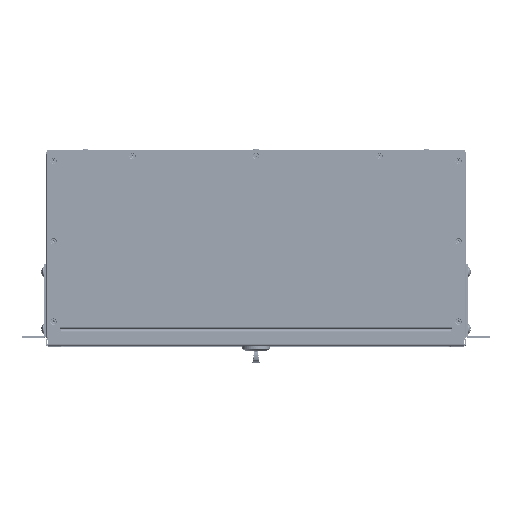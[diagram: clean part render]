
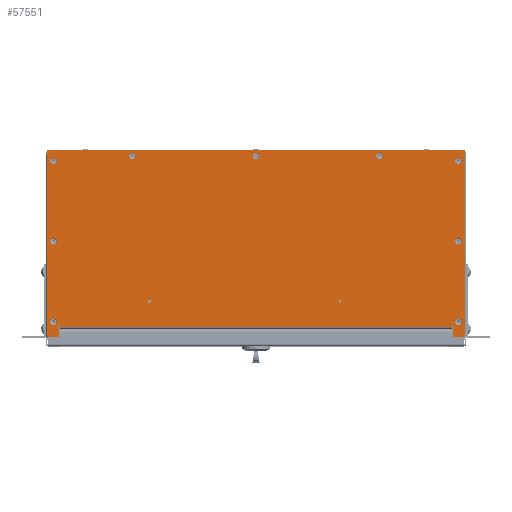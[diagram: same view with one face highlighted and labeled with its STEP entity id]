
A CAD part, top view. The second image highlights one B-rep face of the part: STEP entity #57551.
In plain terms, the highlighted planar face has unit normal (0, 0, 1).
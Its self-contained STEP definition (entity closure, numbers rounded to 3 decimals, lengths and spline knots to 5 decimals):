
#1809=CIRCLE('',#61640,0.00141);
#1810=CIRCLE('',#61641,0.00141);
#1811=CIRCLE('',#61642,0.00324);
#1812=CIRCLE('',#61643,0.00324);
#1813=CIRCLE('',#61644,0.00324);
#1814=CIRCLE('',#61645,0.00324);
#1815=CIRCLE('',#61646,0.00324);
#1816=CIRCLE('',#61647,0.00324);
#1817=CIRCLE('',#61648,0.00324);
#1818=CIRCLE('',#61649,0.00324);
#1819=CIRCLE('',#61650,0.00324);
#1820=CIRCLE('',#61651,0.00081);
#1821=CIRCLE('',#61652,0.00081);
#3971=PLANE('',#61639);
#6575=LINE('',#91644,#11703);
#6576=LINE('',#91649,#11704);
#6577=LINE('',#91651,#11705);
#6578=LINE('',#91653,#11706);
#6579=LINE('',#91655,#11707);
#6580=LINE('',#91657,#11708);
#6581=LINE('',#91659,#11709);
#6582=LINE('',#91661,#11710);
#11703=VECTOR('',#69071,1.);
#11704=VECTOR('',#69074,1.);
#11705=VECTOR('',#69075,1.);
#11706=VECTOR('',#69076,1.);
#11707=VECTOR('',#69077,1.);
#11708=VECTOR('',#69078,1.);
#11709=VECTOR('',#69079,1.);
#11710=VECTOR('',#69080,1.);
#19760=ORIENTED_EDGE('',*,*,#35246,.T.);
#19761=ORIENTED_EDGE('',*,*,#35247,.T.);
#19762=ORIENTED_EDGE('',*,*,#35248,.T.);
#19763=ORIENTED_EDGE('',*,*,#35249,.T.);
#19764=ORIENTED_EDGE('',*,*,#35250,.T.);
#19765=ORIENTED_EDGE('',*,*,#35251,.T.);
#19766=ORIENTED_EDGE('',*,*,#35252,.T.);
#19767=ORIENTED_EDGE('',*,*,#35253,.T.);
#19768=ORIENTED_EDGE('',*,*,#35254,.T.);
#19769=ORIENTED_EDGE('',*,*,#35255,.T.);
#19770=ORIENTED_EDGE('',*,*,#35256,.T.);
#19771=ORIENTED_EDGE('',*,*,#35257,.F.);
#19772=ORIENTED_EDGE('',*,*,#35258,.T.);
#19773=ORIENTED_EDGE('',*,*,#35259,.F.);
#19774=ORIENTED_EDGE('',*,*,#35260,.F.);
#19775=ORIENTED_EDGE('',*,*,#35261,.T.);
#19776=ORIENTED_EDGE('',*,*,#35262,.T.);
#19777=ORIENTED_EDGE('',*,*,#35263,.F.);
#19778=ORIENTED_EDGE('',*,*,#35264,.F.);
#19779=ORIENTED_EDGE('',*,*,#35265,.T.);
#19780=ORIENTED_EDGE('',*,*,#35266,.T.);
#35246=EDGE_CURVE('',#43357,#43357,#1809,.T.);
#35247=EDGE_CURVE('',#43358,#43358,#1810,.T.);
#35248=EDGE_CURVE('',#43359,#43359,#1811,.T.);
#35249=EDGE_CURVE('',#43360,#43360,#1812,.T.);
#35250=EDGE_CURVE('',#43361,#43361,#1813,.T.);
#35251=EDGE_CURVE('',#43362,#43362,#1814,.T.);
#35252=EDGE_CURVE('',#43363,#43363,#1815,.T.);
#35253=EDGE_CURVE('',#43364,#43364,#1816,.T.);
#35254=EDGE_CURVE('',#43365,#43365,#1817,.T.);
#35255=EDGE_CURVE('',#43366,#43366,#1818,.T.);
#35256=EDGE_CURVE('',#43367,#43367,#1819,.T.);
#35257=EDGE_CURVE('',#43368,#43369,#6575,.F.);
#35258=EDGE_CURVE('',#43368,#43370,#1820,.F.);
#35259=EDGE_CURVE('',#43371,#43370,#6576,.F.);
#35260=EDGE_CURVE('',#43372,#43371,#6577,.T.);
#35261=EDGE_CURVE('',#43372,#43373,#6578,.T.);
#35262=EDGE_CURVE('',#43373,#43374,#6579,.T.);
#35263=EDGE_CURVE('',#43375,#43374,#6580,.T.);
#35264=EDGE_CURVE('',#43376,#43375,#6581,.T.);
#35265=EDGE_CURVE('',#43376,#43377,#6582,.T.);
#35266=EDGE_CURVE('',#43377,#43369,#1821,.F.);
#43357=VERTEX_POINT('',#91623);
#43358=VERTEX_POINT('',#91625);
#43359=VERTEX_POINT('',#91627);
#43360=VERTEX_POINT('',#91629);
#43361=VERTEX_POINT('',#91631);
#43362=VERTEX_POINT('',#91633);
#43363=VERTEX_POINT('',#91635);
#43364=VERTEX_POINT('',#91637);
#43365=VERTEX_POINT('',#91639);
#43366=VERTEX_POINT('',#91641);
#43367=VERTEX_POINT('',#91643);
#43368=VERTEX_POINT('',#91645);
#43369=VERTEX_POINT('',#91646);
#43370=VERTEX_POINT('',#91648);
#43371=VERTEX_POINT('',#91650);
#43372=VERTEX_POINT('',#91652);
#43373=VERTEX_POINT('',#91654);
#43374=VERTEX_POINT('',#91656);
#43375=VERTEX_POINT('',#91658);
#43376=VERTEX_POINT('',#91660);
#43377=VERTEX_POINT('',#91662);
#48559=EDGE_LOOP('',(#19760));
#48560=EDGE_LOOP('',(#19761));
#48561=EDGE_LOOP('',(#19762));
#48562=EDGE_LOOP('',(#19763));
#48563=EDGE_LOOP('',(#19764));
#48564=EDGE_LOOP('',(#19765));
#48565=EDGE_LOOP('',(#19766));
#48566=EDGE_LOOP('',(#19767));
#48567=EDGE_LOOP('',(#19768));
#48568=EDGE_LOOP('',(#19769));
#48569=EDGE_LOOP('',(#19770));
#48570=EDGE_LOOP('',(#19771,#19772,#19773,#19774,#19775,#19776,#19777,#19778,
#19779,#19780));
#52547=FACE_BOUND('',#48559,.T.);
#52548=FACE_BOUND('',#48560,.T.);
#52549=FACE_BOUND('',#48561,.T.);
#52550=FACE_BOUND('',#48562,.T.);
#52551=FACE_BOUND('',#48563,.T.);
#52552=FACE_BOUND('',#48564,.T.);
#52553=FACE_BOUND('',#48565,.T.);
#52554=FACE_BOUND('',#48566,.T.);
#52555=FACE_BOUND('',#48567,.T.);
#52556=FACE_BOUND('',#48568,.T.);
#52557=FACE_BOUND('',#48569,.T.);
#52558=FACE_BOUND('',#48570,.T.);
#57551=ADVANCED_FACE('',(#52547,#52548,#52549,#52550,#52551,#52552,#52553,
#52554,#52555,#52556,#52557,#52558),#3971,.T.);
#61639=AXIS2_PLACEMENT_3D('',#91621,#69047,#69048);
#61640=AXIS2_PLACEMENT_3D('',#91622,#69049,#69050);
#61641=AXIS2_PLACEMENT_3D('',#91624,#69051,#69052);
#61642=AXIS2_PLACEMENT_3D('',#91626,#69053,#69054);
#61643=AXIS2_PLACEMENT_3D('',#91628,#69055,#69056);
#61644=AXIS2_PLACEMENT_3D('',#91630,#69057,#69058);
#61645=AXIS2_PLACEMENT_3D('',#91632,#69059,#69060);
#61646=AXIS2_PLACEMENT_3D('',#91634,#69061,#69062);
#61647=AXIS2_PLACEMENT_3D('',#91636,#69063,#69064);
#61648=AXIS2_PLACEMENT_3D('',#91638,#69065,#69066);
#61649=AXIS2_PLACEMENT_3D('',#91640,#69067,#69068);
#61650=AXIS2_PLACEMENT_3D('',#91642,#69069,#69070);
#61651=AXIS2_PLACEMENT_3D('',#91647,#69072,#69073);
#61652=AXIS2_PLACEMENT_3D('',#91663,#69081,#69082);
#69047=DIRECTION('',(0.,0.,1.));
#69048=DIRECTION('',(1.,0.,0.));
#69049=DIRECTION('',(0.,0.,-1.));
#69050=DIRECTION('',(-1.,0.,0.));
#69051=DIRECTION('',(0.,0.,-1.));
#69052=DIRECTION('',(-1.,0.,0.));
#69053=DIRECTION('',(0.,0.,-1.));
#69054=DIRECTION('',(-1.,0.,0.));
#69055=DIRECTION('',(0.,0.,-1.));
#69056=DIRECTION('',(-1.,0.,0.));
#69057=DIRECTION('',(0.,0.,-1.));
#69058=DIRECTION('',(-1.,0.,0.));
#69059=DIRECTION('',(0.,0.,-1.));
#69060=DIRECTION('',(-1.,0.,0.));
#69061=DIRECTION('',(0.,0.,-1.));
#69062=DIRECTION('',(-1.,0.,0.));
#69063=DIRECTION('',(0.,0.,-1.));
#69064=DIRECTION('',(-1.,0.,0.));
#69065=DIRECTION('',(0.,0.,-1.));
#69066=DIRECTION('',(-1.,0.,0.));
#69067=DIRECTION('',(0.,0.,-1.));
#69068=DIRECTION('',(-1.,0.,0.));
#69069=DIRECTION('',(0.,0.,-1.));
#69070=DIRECTION('',(-1.,0.,0.));
#69071=DIRECTION('',(1.,0.,0.));
#69072=DIRECTION('',(0.,0.,1.));
#69073=DIRECTION('',(1.,0.,0.));
#69074=DIRECTION('',(0.,-1.,0.));
#69075=DIRECTION('',(-1.,0.,0.));
#69076=DIRECTION('',(0.,1.,0.));
#69077=DIRECTION('',(-1.,0.,0.));
#69078=DIRECTION('',(0.,1.,0.));
#69079=DIRECTION('',(-1.,0.,0.));
#69080=DIRECTION('',(0.,1.,0.));
#69081=DIRECTION('',(0.,0.,1.));
#69082=DIRECTION('',(1.,0.,0.));
#91621=CARTESIAN_POINT('',(0.,0.,0.00152));
#91622=CARTESIAN_POINT('',(-0.10947,-0.05944,0.00152));
#91623=CARTESIAN_POINT('',(-0.11088,-0.05944,0.00152));
#91624=CARTESIAN_POINT('',(0.08636,-0.05944,0.00152));
#91625=CARTESIAN_POINT('',(0.08495,-0.05944,0.00152));
#91626=CARTESIAN_POINT('',(-0.20815,-0.08026,0.00152));
#91627=CARTESIAN_POINT('',(-0.21139,-0.08026,0.00152));
#91628=CARTESIAN_POINT('',(-0.20815,0.00229,0.00152));
#91629=CARTESIAN_POINT('',(-0.21139,0.00229,0.00152));
#91630=CARTESIAN_POINT('',(0.20815,-0.08026,0.00152));
#91631=CARTESIAN_POINT('',(0.20491,-0.08026,0.00152));
#91632=CARTESIAN_POINT('',(0.20815,0.00229,0.00152));
#91633=CARTESIAN_POINT('',(0.20491,0.00229,0.00152));
#91634=CARTESIAN_POINT('',(0.20815,0.08484,0.00152));
#91635=CARTESIAN_POINT('',(0.20491,0.08484,0.00152));
#91636=CARTESIAN_POINT('',(0.127,0.08992,0.00152));
#91637=CARTESIAN_POINT('',(0.12376,0.08992,0.00152));
#91638=CARTESIAN_POINT('',(0.,0.08992,0.00152));
#91639=CARTESIAN_POINT('',(-0.00324,0.08992,0.00152));
#91640=CARTESIAN_POINT('',(-0.127,0.08992,0.00152));
#91641=CARTESIAN_POINT('',(-0.13024,0.08992,0.00152));
#91642=CARTESIAN_POINT('',(-0.20815,0.08484,0.00152));
#91643=CARTESIAN_POINT('',(-0.21139,0.08484,0.00152));
#91644=CARTESIAN_POINT('',(0.,-0.08534,0.00152));
#91645=CARTESIAN_POINT('',(0.2013,-0.08534,0.00152));
#91646=CARTESIAN_POINT('',(-0.2013,-0.08534,0.00152));
#91647=CARTESIAN_POINT('',(0.2021,-0.08534,0.00152));
#91648=CARTESIAN_POINT('',(0.20292,-0.08534,0.00152));
#91649=CARTESIAN_POINT('',(0.20292,0.,0.00152));
#91650=CARTESIAN_POINT('',(0.20292,-0.09627,0.00152));
#91651=CARTESIAN_POINT('',(0.,-0.09627,0.00152));
#91652=CARTESIAN_POINT('',(0.21438,-0.09627,0.00152));
#91653=CARTESIAN_POINT('',(0.21438,0.,0.00152));
#91654=CARTESIAN_POINT('',(0.21438,0.09627,0.00152));
#91655=CARTESIAN_POINT('',(0.,0.09627,0.00152));
#91656=CARTESIAN_POINT('',(-0.21438,0.09627,0.00152));
#91657=CARTESIAN_POINT('',(-0.21438,0.,0.00152));
#91658=CARTESIAN_POINT('',(-0.21438,-0.09627,0.00152));
#91659=CARTESIAN_POINT('',(0.,-0.09627,0.00152));
#91660=CARTESIAN_POINT('',(-0.20292,-0.09627,0.00152));
#91661=CARTESIAN_POINT('',(-0.20292,0.,0.00152));
#91662=CARTESIAN_POINT('',(-0.20292,-0.08534,0.00152));
#91663=CARTESIAN_POINT('',(-0.2021,-0.08534,0.00152));
